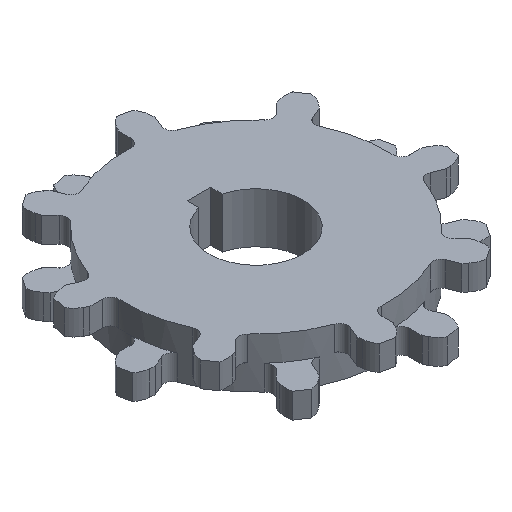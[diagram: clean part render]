
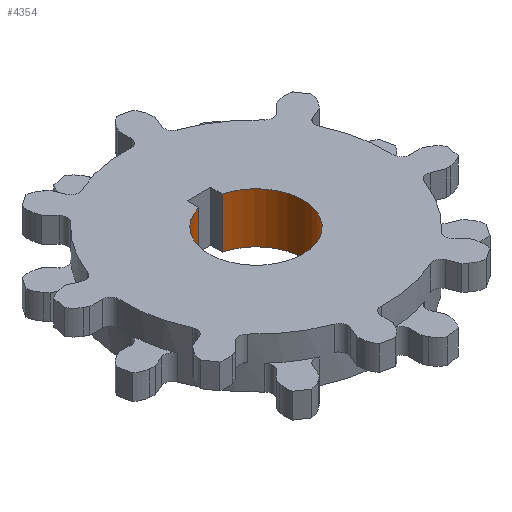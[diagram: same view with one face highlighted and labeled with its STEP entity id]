
A CAD part, isometric view. The second image highlights one B-rep face of the part: STEP entity #4354.
In plain terms, the highlighted cylindrical face has radius 19.05 mm (diameter 38.1 mm), a partial arc.
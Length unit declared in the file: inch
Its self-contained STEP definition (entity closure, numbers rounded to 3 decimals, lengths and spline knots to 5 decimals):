
#651=CARTESIAN_POINT('',(0.,0.,0.4025));
#652=DIRECTION('',(0.,0.,1.));
#653=DIRECTION('',(-0.25,0.968,0.));
#654=AXIS2_PLACEMENT_3D('',#651,#652,#653);
#1134=DIRECTION('',(0.,0.,-1.));
#1135=VECTOR('',#1134,0.805);
#1136=CARTESIAN_POINT('',(0.1875,0.72618,0.4025));
#1137=LINE('',#1136,#1135);
#1138=DIRECTION('',(0.,0.,-1.));
#1139=VECTOR('',#1138,0.805);
#1140=CARTESIAN_POINT('',(-0.1875,0.72618,0.4025));
#1141=LINE('',#1140,#1139);
#1394=CARTESIAN_POINT('',(0.,0.,-0.4025));
#1395=DIRECTION('',(0.,0.,1.));
#1396=DIRECTION('',(-0.25,0.968,0.));
#1397=AXIS2_PLACEMENT_3D('',#1394,#1395,#1396);
#2808=CARTESIAN_POINT('',(-0.1875,0.72618,0.4025));
#2810=VERTEX_POINT('',#2808);
#2811=CARTESIAN_POINT('',(0.1875,0.72618,0.4025));
#2812=VERTEX_POINT('',#2811);
#2816=CARTESIAN_POINT('',(-0.1875,0.72618,-0.4025));
#2818=VERTEX_POINT('',#2816);
#2819=CARTESIAN_POINT('',(0.1875,0.72618,-0.4025));
#2820=VERTEX_POINT('',#2819);
#4342=CARTESIAN_POINT('',(0.,0.,0.483));
#4343=DIRECTION('',(0.,0.,1.));
#4344=DIRECTION('',(1.,0.,0.));
#4345=AXIS2_PLACEMENT_3D('',#4342,#4343,#4344);
#4346=CYLINDRICAL_SURFACE('',#4345,0.75);
#4347=ORIENTED_EDGE('',*,*,#3375,.F.);
#4348=ORIENTED_EDGE('',*,*,#4309,.T.);
#4350=ORIENTED_EDGE('',*,*,#4349,.T.);
#4351=ORIENTED_EDGE('',*,*,#4334,.F.);
#4352=EDGE_LOOP('',(#4347,#4348,#4350,#4351));
#4353=FACE_OUTER_BOUND('',#4352,.F.);
#4354=ADVANCED_FACE('',(#4353),#4346,.F.);
#655=CIRCLE('',#654,0.75);
#1398=CIRCLE('',#1397,0.75);
#3375=EDGE_CURVE('',#2810,#2812,#655,.T.);
#4309=EDGE_CURVE('',#2810,#2818,#1141,.T.);
#4334=EDGE_CURVE('',#2812,#2820,#1137,.T.);
#4349=EDGE_CURVE('',#2818,#2820,#1398,.T.);
